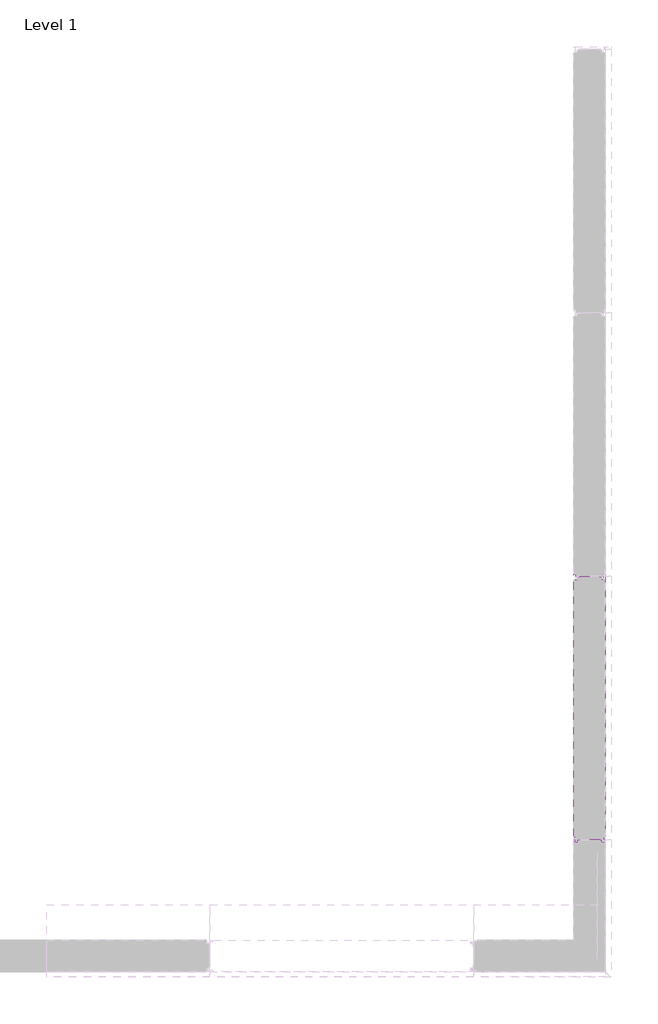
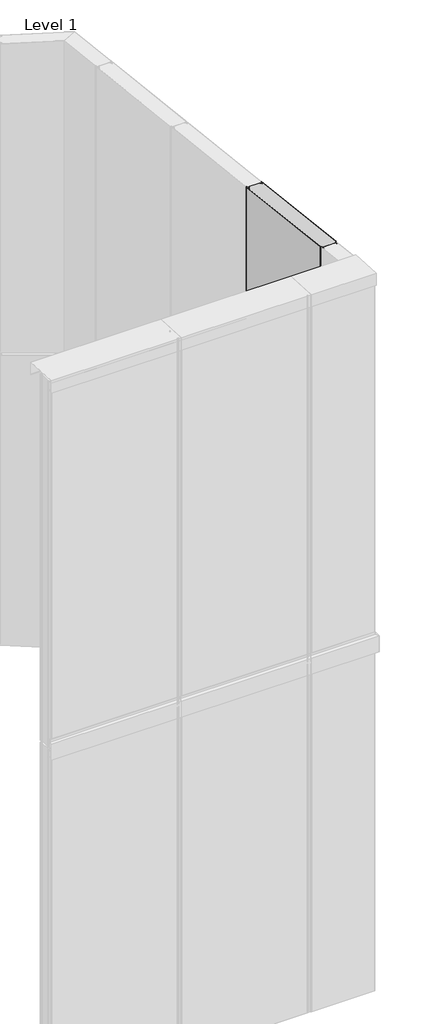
# One storey, part 7 of 16: 1 plate.
"""IFC4 building model written with IfcOpenShell, lengths in millimetres."""

from ifc_helpers import new_model, si_unit, frame, origin, place, context, project, spatial, polyline, circle_curve, ellipse_curve, element, save
from ifc_brep_helpers import plane_surface, cylinder_surface, revolved_surface, advanced_brep

model = new_model("IFC4")

# Units and contexts
model_context = context("Model", 3, world=origin())
ifc_project = project(units=[si_unit("LENGTHUNIT", "METRE", prefix="MILLI")], contexts=[model_context])

# Site, building, storey
site = spatial("IfcSite", under=ifc_project)
building = spatial("IfcBuilding", under=site)
storey = spatial("IfcBuildingStorey", under=building, Name="Level 1", Elevation=0.0)

# Plate
placement = place(None, origin())
element("IfcPlate", 1, ObjectType="TR_C_V_FTV_Panel : 120/RAL9006/RAL9002", at=placement, inside=storey, context=model_context, shape_type="AdvancedBrep", body=[
    advanced_brep(
    [(-11.0024729, 4469.8069107, 3000.0), (-6.5215976, 4466.0470099, 3000.0), (-5.7782846, 4461.8314726, 3000.0), (-0.9155057, 4462.2569107, 3000.0), (-0.9155057, 4477.0069107, 3000.0), (0.051042, 4479.340363, 3000.0), (4.4401293, 4483.7294503, 3000.0), (5.0844943, 4485.2850853, 3000.0), (5.0844943, 5474.6255398, 3000.0), (4.5133526, 5476.004398, 3000.0), (2.6476671, 5477.8700835, 3000.0), (0.6844943, 5477.0569107, 3000.0), (0.6844943, 5459.4569107, 3000.0), (-7.7509386, 5458.7189059, 3000.0), (-8.8177639, 5464.7691728, 3000.0), (-11.7229468, 5467.2069107, 3000.0), (-15.1155057, 5467.2069107, 3000.0), (-15.1155057, 5468.0069107, 3000.0), (-11.7229468, 5468.0069107, 3000.0), (-8.0299177, 5464.9080913, 3000.0), (-6.9630924, 5458.8578244, 3000.0), (-0.1155057, 5459.4569107, 3000.0), (-0.1155057, 5477.0569107, 3000.0), (3.2133526, 5478.4357689, 3000.0), (5.079038, 5476.5700835, 3000.0), (5.8844943, 5474.6255398, 3000.0), (5.8844943, 4485.2850853, 3000.0), (5.0058147, 4483.1637649, 3000.0), (0.6167274, 4478.7746776, 3000.0), (-0.1155057, 4477.0069107, 3000.0), (-0.1155057, 4462.2569107, 3000.0), (-6.5661308, 4461.6925541, 3000.0), (-7.3094438, 4465.9080913, 3000.0), (-11.0024729, 4469.0069107, 3000.0), (-15.1155057, 4469.0069107, 3000.0), (-15.1155057, 4469.8069107, 3000.0), (-15.1155057, 4469.8069107, 5935.7906978), (-11.0024729, 4469.8069107, 5935.7906978), (-15.1155057, 4469.0069107, 5935.8837211), (-11.0024729, 4469.0069107, 5935.8837211), (-7.3094438, 4465.9080913, 5936.2440489), (-6.5661308, 4461.6925541, 5936.7342277), (-0.1155057, 4462.2569107, 5936.6686048), (-0.1155057, 4477.0069107, 5934.9534885), (0.6167274, 4478.7746776, 5934.7479342), (5.0058147, 4483.1637649, 5934.2375753), (5.8844943, 4485.2850853, 5933.9909101), (5.8844943, 5474.6255398, 5818.9513224), (5.079038, 5476.5700835, 5818.7252126), (3.2133526, 5478.4357689, 5818.5082725), (-0.1155057, 5477.0569107, 5818.6686048), (-0.1155057, 5459.4569107, 5820.7151165), (-6.9630924, 5458.8578244, 5820.7847776), (-8.0299177, 5464.9080913, 5820.0812582), (-11.7229468, 5468.0069107, 5819.7209304), (-15.1155057, 5468.0069107, 5819.7209304), (-15.1155057, 5467.2069107, 5819.8139537), (-11.7229468, 5467.2069107, 5819.8139537), (-8.8177639, 5464.7691728, 5820.0974116), (-7.7509386, 5458.7189059, 5820.800931), (0.6844943, 5459.4569107, 5820.7151165), (0.6844943, 5477.0569107, 5818.6686048), (2.6476671, 5477.8700835, 5818.5740498), (4.5133526, 5476.004398, 5818.79099), (5.0844943, 5474.6255398, 5818.9513224), (5.0844943, 4485.2850853, 5933.9909101), (4.4401293, 4483.7294503, 5934.1717979), (0.051042, 4479.340363, 5934.6821569), (-0.9155057, 4477.0069107, 5934.9534885), (-0.9155057, 4462.2569107, 5936.6686048), (-5.7782846, 4461.8314726, 5936.7180744), (-6.5215976, 4466.0470099, 5936.2278956)],
    [
        (0, 1, circle_curve(frame((-11.0024729, 4465.2569107, 3000.0), z_axis=(0.0, 0.0, -1.0), x_axis=(0.0, -1.0, 0.0)), 4.55)),
        (1, 2),
        (2, 3, circle_curve(frame((-3.3655057, 4462.2569107, 3000.0), z_axis=(0.0, 0.0, 1.0), x_axis=(0.0, -1.0, 0.0)), 2.45)),
        (3, 4),
        (4, 5, circle_curve(frame((2.3844943, 4477.0069107, 3000.0), z_axis=(0.0, 0.0, -1.0), x_axis=(0.0, -1.0, 0.0)), 3.3)),
        (5, 6),
        (6, 7, circle_curve(frame((2.8844943, 4485.2850853, 3000.0), z_axis=(0.0, 0.0, 1.0), x_axis=(0.0, -1.0, 0.0)), 2.2)),
        (7, 8),
        (8, 9, circle_curve(frame((3.1344943, 5474.6255398, 3000.0), z_axis=(0.0, 0.0, 1.0), x_axis=(0.0, -1.0, 0.0)), 1.95)),
        (9, 10),
        (10, 11, circle_curve(frame((1.8344943, 5477.0569107, 3000.0), z_axis=(0.0, 0.0, 1.0), x_axis=(0.0, -1.0, 0.0)), 1.15)),
        (11, 12),
        (12, 13, circle_curve(frame((-3.5655057, 5459.4569107, 3000.0), z_axis=(0.0, 0.0, -1.0), x_axis=(0.0, -1.0, 0.0)), 4.25)),
        (13, 14),
        (14, 15, circle_curve(frame((-11.7229468, 5464.2569107, 3000.0), z_axis=(0.0, 0.0, 1.0), x_axis=(0.0, -1.0, 0.0)), 2.95)),
        (15, 16),
        (16, 17),
        (17, 18),
        (18, 19, circle_curve(frame((-11.7229468, 5464.2569107, 3000.0), z_axis=(0.0, 0.0, -1.0), x_axis=(0.0, -1.0, 0.0)), 3.75)),
        (19, 20),
        (20, 21, circle_curve(frame((-3.5655057, 5459.4569107, 3000.0), z_axis=(0.0, 0.0, 1.0), x_axis=(0.0, -1.0, 0.0)), 3.45)),
        (21, 22),
        (22, 23, circle_curve(frame((1.8344943, 5477.0569107, 3000.0), z_axis=(0.0, 0.0, -1.0), x_axis=(0.0, -1.0, 0.0)), 1.95)),
        (23, 24),
        (24, 25, circle_curve(frame((3.1344943, 5474.6255398, 3000.0), z_axis=(0.0, 0.0, -1.0), x_axis=(0.0, -1.0, 0.0)), 2.75)),
        (25, 26),
        (26, 27, circle_curve(frame((2.8844943, 4485.2850853, 3000.0), z_axis=(0.0, 0.0, -1.0), x_axis=(0.0, -1.0, 0.0)), 3.0)),
        (27, 28),
        (28, 29, circle_curve(frame((2.3844943, 4477.0069107, 3000.0), z_axis=(0.0, 0.0, 1.0), x_axis=(0.0, -1.0, 0.0)), 2.5)),
        (29, 30),
        (30, 31, circle_curve(frame((-3.3655057, 4462.2569107, 3000.0), z_axis=(0.0, 0.0, -1.0), x_axis=(0.0, -1.0, 0.0)), 3.25)),
        (31, 32),
        (32, 33, circle_curve(frame((-11.0024729, 4465.2569107, 3000.0), z_axis=(0.0, 0.0, 1.0), x_axis=(0.0, -1.0, 0.0)), 3.75)),
        (33, 34),
        (34, 35),
        (35, 0),
        (35, 36),
        (36, 37),
        (37, 0),
        (34, 38),
        (38, 36),
        (33, 39),
        (39, 38),
        (32, 40),
        (40, 39, ellipse_curve(frame((-11.0024729, 4465.2569107, 5936.3197676), z_axis=(0.0, 0.1155008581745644, 0.9933073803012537), x_axis=(0.0, 0.9933073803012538, -0.11550085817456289)), 3.7752664, 3.75)),
        (31, 41),
        (41, 40),
        (30, 42),
        (42, 41, ellipse_curve(frame((-3.3655057, 4462.2569107, 5936.6686048), z_axis=(0.0, -0.1155008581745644, -0.9933073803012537), x_axis=(0.0, -0.9933073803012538, 0.11550085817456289)), 3.2718976, 3.25)),
        (29, 43),
        (43, 42),
        (28, 44),
        (44, 43, ellipse_curve(frame((2.3844943, 4477.0069107, 5934.9534885), z_axis=(0.0, 0.1155008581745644, 0.9933073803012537), x_axis=(0.0, 0.9933073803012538, -0.11550085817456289)), 2.5168443, 2.5)),
        (27, 45),
        (45, 44),
        (26, 46),
        (46, 45, ellipse_curve(frame((2.8844943, 4485.2850853, 5933.9909101), z_axis=(0.0, -0.1155008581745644, -0.9933073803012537), x_axis=(0.0, -0.9933073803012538, 0.11550085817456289)), 3.0202131, 3.0)),
        (25, 47),
        (47, 46),
        (24, 48),
        (48, 47, ellipse_curve(frame((3.1344943, 5474.6255398, 5818.9513224), z_axis=(0.0, -0.1155008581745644, -0.9933073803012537), x_axis=(0.0, -0.9933073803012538, 0.11550085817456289)), 2.7685287, 2.75)),
        (23, 49),
        (49, 48),
        (22, 50),
        (50, 49, ellipse_curve(frame((1.8344943, 5477.0569107, 5818.6686048), z_axis=(0.0, -0.1155008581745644, -0.9933073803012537), x_axis=(0.0, -0.9933073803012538, 0.11550085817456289)), 1.9631385, 1.95)),
        (21, 51),
        (51, 50),
        (20, 52),
        (52, 51, ellipse_curve(frame((-3.5655057, 5459.4569107, 5820.7151165), z_axis=(0.0, 0.1155008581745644, 0.9933073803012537), x_axis=(0.0, 0.9933073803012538, -0.11550085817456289)), 3.4732451, 3.45)),
        (19, 53),
        (53, 52),
        (18, 54),
        (54, 53, ellipse_curve(frame((-11.7229468, 5464.2569107, 5820.1569769), z_axis=(0.0, -0.1155008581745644, -0.9933073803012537), x_axis=(0.0, -0.9933073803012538, 0.11550085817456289)), 3.7752664, 3.75)),
        (17, 55),
        (55, 54),
        (16, 56),
        (56, 55),
        (15, 57),
        (57, 56),
        (14, 58),
        (58, 57, ellipse_curve(frame((-11.7229468, 5464.2569107, 5820.1569769), z_axis=(0.0, 0.1155008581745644, 0.9933073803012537), x_axis=(0.0, 0.9933073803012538, -0.11550085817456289)), 2.9698763, 2.95)),
        (13, 59),
        (59, 58),
        (12, 60),
        (60, 59, ellipse_curve(frame((-3.5655057, 5459.4569107, 5820.7151165), z_axis=(0.0, -0.1155008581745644, -0.9933073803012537), x_axis=(0.0, -0.9933073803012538, 0.11550085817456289)), 4.2786353, 4.25)),
        (11, 61),
        (61, 60),
        (10, 62),
        (62, 61, ellipse_curve(frame((1.8344943, 5477.0569107, 5818.6686048), z_axis=(0.0, 0.1155008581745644, 0.9933073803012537), x_axis=(0.0, 0.9933073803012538, -0.11550085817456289)), 1.1577484, 1.15)),
        (9, 63),
        (63, 62),
        (8, 64),
        (64, 63, ellipse_curve(frame((3.1344943, 5474.6255398, 5818.9513224), z_axis=(0.0, 0.1155008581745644, 0.9933073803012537), x_axis=(0.0, 0.9933073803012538, -0.11550085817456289)), 1.9631385, 1.95)),
        (7, 65),
        (65, 64),
        (6, 66),
        (66, 65, ellipse_curve(frame((2.8844943, 4485.2850853, 5933.9909101), z_axis=(0.0, 0.1155008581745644, 0.9933073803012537), x_axis=(0.0, 0.9933073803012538, -0.11550085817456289)), 2.214823, 2.2)),
        (5, 67),
        (67, 66),
        (4, 68),
        (68, 67, ellipse_curve(frame((2.3844943, 4477.0069107, 5934.9534885), z_axis=(0.0, -0.1155008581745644, -0.9933073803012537), x_axis=(0.0, -0.9933073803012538, 0.11550085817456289)), 3.3222345, 3.3)),
        (3, 69),
        (69, 68),
        (2, 70),
        (70, 69, ellipse_curve(frame((-3.3655057, 4462.2569107, 5936.6686048), z_axis=(0.0, 0.1155008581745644, 0.9933073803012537), x_axis=(0.0, 0.9933073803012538, -0.11550085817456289)), 2.4665074, 2.45)),
        (1, 71),
        (71, 70),
        (37, 71, ellipse_curve(frame((-11.0024729, 4465.2569107, 5936.3197676), z_axis=(0.0, -0.1155008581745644, -0.9933073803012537), x_axis=(0.0, -0.9933073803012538, 0.11550085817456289)), 4.5806566, 4.55)),
    ],
    [
        plane_surface(frame((-15.1155057, 4469.8069107, 3000.0), z_axis=(0.0, 0.0, -1.0), x_axis=(1.0, 0.0, 0.0))),
        plane_surface(frame((-11.0024729, 4469.8069107, 5980.0), z_axis=(0.0, 1.0, 0.0), x_axis=(0.0, 0.0, -1.0))),
        plane_surface(frame((-15.1155057, 4469.8069107, 5980.0), z_axis=(-1.0, 0.0, 0.0), x_axis=(0.0, 0.0, -1.0))),
        plane_surface(frame((-15.1155057, 4469.0069107, 5980.0), z_axis=(0.0, -1.0, 0.0), x_axis=(0.0, 0.0, -1.0))),
        revolved_surface(polyline([(-11.0024729, 4461.5069107, 3000.0), (-11.0024729, 4461.5069107, 5936.755814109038)]), (-11.0024729, 4465.2569107, 3000.0), (0.0, 0.0, -1.0)),
        plane_surface(frame((-7.3094438, 4465.9080913, 5980.0), z_axis=(-0.9848077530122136, -0.17364817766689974, 0.0), x_axis=(0.0, 0.0, -1.0))),
        cylinder_surface(frame((-3.3655057, 4462.2569107, 3000.0), z_axis=(0.0, 0.0, 1.0), x_axis=(0.0, -1.0, 0.0)), 3.25),
        plane_surface(frame((-0.1155057, 4462.2569107, 5980.0), z_axis=(1.0, 0.0, 0.0), x_axis=(0.0, 0.0, -1.0))),
        revolved_surface(polyline([(2.3844943, 4474.5069107, 3000.0), (2.3844943, 4474.5069107, 5935.244186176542)]), (2.3844943, 4477.0069107, 3000.0), (0.0, 0.0, -1.0)),
        plane_surface(frame((0.6167274, 4478.7746776, 5980.0), z_axis=(0.7071067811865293, -0.7071067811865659, 0.0), x_axis=(0.0, 0.0, -1.0))),
        cylinder_surface(frame((2.8844943, 4485.2850853, 3000.0), z_axis=(0.0, 0.0, 1.0), x_axis=(0.0, -1.0, 0.0)), 3.0),
        plane_surface(frame((5.8844943, 4485.2850853, 5980.0), z_axis=(1.0, 0.0, 0.0), x_axis=(0.0, 0.0, -1.0))),
        cylinder_surface(frame((3.1344943, 5474.6255398, 3000.0), z_axis=(0.0, 0.0, 1.0), x_axis=(0.0, -1.0, 0.0)), 2.75),
        plane_surface(frame((5.079038, 5476.5700835, 5980.0), z_axis=(0.7071067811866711, 0.707106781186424, 0.0), x_axis=(0.0, 0.0, -1.0))),
        cylinder_surface(frame((1.8344943, 5477.0569107, 3000.0), z_axis=(0.0, 0.0, 1.0), x_axis=(0.0, -1.0, 0.0)), 1.95),
        plane_surface(frame((-0.1155057, 5477.0569107, 5980.0), z_axis=(-1.0, 0.0, 0.0), x_axis=(0.0, 0.0, -1.0))),
        revolved_surface(polyline([(-3.5655057, 5456.0069107, 3000.0), (-3.5655057, 5456.0069107, 5821.1162792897)]), (-3.5655057, 5459.4569107, 3000.0), (0.0, 0.0, -1.0)),
        plane_surface(frame((-6.9630924, 5458.8578244, 5980.0), z_axis=(0.9848077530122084, 0.17364817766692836, 0.0), x_axis=(0.0, 0.0, -1.0))),
        cylinder_surface(frame((-11.7229468, 5464.2569107, 3000.0), z_axis=(0.0, 0.0, 1.0), x_axis=(0.0, -1.0, 0.0)), 3.75),
        plane_surface(frame((-11.7229468, 5468.0069107, 5980.0), z_axis=(0.0, 1.0, 0.0), x_axis=(0.0, 0.0, -1.0))),
        plane_surface(frame((-15.1155057, 5468.0069107, 5980.0), z_axis=(-1.0, 0.0, 0.0), x_axis=(0.0, 0.0, -1.0))),
        plane_surface(frame((-15.1155057, 5467.2069107, 5980.0), z_axis=(0.0, -1.0, 0.0), x_axis=(0.0, 0.0, -1.0))),
        revolved_surface(polyline([(-11.7229468, 5461.3069107, 3000.0), (-11.7229468, 5461.3069107, 5820.5000001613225)]), (-11.7229468, 5464.2569107, 3000.0), (0.0, 0.0, -1.0)),
        plane_surface(frame((-8.8177639, 5464.7691728, 5980.0), z_axis=(-0.9848077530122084, -0.17364817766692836, 0.0), x_axis=(0.0, 0.0, -1.0))),
        cylinder_surface(frame((-3.5655057, 5459.4569107, 3000.0), z_axis=(0.0, 0.0, 1.0), x_axis=(0.0, -1.0, 0.0)), 4.25),
        plane_surface(frame((0.6844943, 5459.4569107, 5980.0), z_axis=(1.0, 0.0, 0.0), x_axis=(0.0, 0.0, -1.0))),
        revolved_surface(polyline([(1.8344943, 5475.9069107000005, 3000.0), (1.8344943, 5475.9069107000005, 5818.80232573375)]), (1.8344943, 5477.0569107, 3000.0), (0.0, 0.0, -1.0)),
        plane_surface(frame((2.6476671, 5477.8700835, 5980.0), z_axis=(-0.7071067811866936, -0.7071067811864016, 0.0), x_axis=(0.0, 0.0, -1.0))),
        revolved_surface(polyline([(3.1344943, 5472.6755398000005, 3000.0), (3.1344943, 5472.6755398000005, 5819.178066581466)]), (3.1344943, 5474.6255398, 3000.0), (0.0, 0.0, -1.0)),
        plane_surface(frame((5.0844943, 5474.6255398, 5980.0), z_axis=(-1.0, 0.0, 0.0), x_axis=(0.0, 0.0, -1.0))),
        revolved_surface(polyline([(2.8844943, 4483.0850853, 3000.0), (2.8844943, 4483.0850853, 5934.246724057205)]), (2.8844943, 4485.2850853, 3000.0), (0.0, 0.0, -1.0)),
        plane_surface(frame((4.4401293, 4483.7294503, 5980.0), z_axis=(-0.7071067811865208, 0.7071067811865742, 0.0), x_axis=(0.0, 0.0, -1.0))),
        cylinder_surface(frame((2.3844943, 4477.0069107, 3000.0), z_axis=(0.0, 0.0, 1.0), x_axis=(0.0, -1.0, 0.0)), 3.3),
        plane_surface(frame((-0.9155057, 4477.0069107, 5980.0), z_axis=(-1.0, 0.0, 0.0), x_axis=(0.0, 0.0, -1.0))),
        revolved_surface(polyline([(-3.3655057, 4459.8069107, 3000.0), (-3.3655057, 4459.8069107, 5936.953488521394)]), (-3.3655057, 4462.2569107, 3000.0), (0.0, 0.0, -1.0)),
        plane_surface(frame((-5.7782846, 4461.8314726, 5980.0), z_axis=(0.9848077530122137, 0.17364817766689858, 0.0), x_axis=(0.0, 0.0, -1.0))),
        cylinder_surface(frame((-11.0024729, 4465.2569107, 3000.0), z_axis=(0.0, 0.0, 1.0), x_axis=(0.0, -1.0, 0.0)), 4.55),
        plane_surface(frame((5.8844943, 6239.6069121, 5730.0), z_axis=(0.0, 0.1155008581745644, 0.9933073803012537), x_axis=(0.0, -0.9933073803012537, 0.1155008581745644))),
    ],
    [
        (0, [[1, 2, 3, 4, 5, 6, 7, 8, 9, 10, 11, 12, 13, 14, 15, 16, 17, 18, 19, 20, 21, 22, 23, 24, 25, 26, 27, 28, 29, 30, 31, 32, 33, 34, 35, 36]]),
        (1, [[-36, 37, 38, 39]]),
        (2, [[-35, 40, 41, -37]]),
        (3, [[-34, 42, 43, -40]]),
        (4, [[-33, 44, 45, -42]]),
        (5, [[-32, 46, 47, -44]]),
        (6, [[-31, 48, 49, -46]]),
        (7, [[-30, 50, 51, -48]]),
        (8, [[-29, 52, 53, -50]]),
        (9, [[-28, 54, 55, -52]]),
        (10, [[-27, 56, 57, -54]]),
        (11, [[-26, 58, 59, -56]]),
        (12, [[-25, 60, 61, -58]]),
        (13, [[-24, 62, 63, -60]]),
        (14, [[-23, 64, 65, -62]]),
        (15, [[-22, 66, 67, -64]]),
        (16, [[-21, 68, 69, -66]]),
        (17, [[-20, 70, 71, -68]]),
        (18, [[-19, 72, 73, -70]]),
        (19, [[-18, 74, 75, -72]]),
        (20, [[-17, 76, 77, -74]]),
        (21, [[-16, 78, 79, -76]]),
        (22, [[-15, 80, 81, -78]]),
        (23, [[-14, 82, 83, -80]]),
        (24, [[-13, 84, 85, -82]]),
        (25, [[-12, 86, 87, -84]]),
        (26, [[-11, 88, 89, -86]]),
        (27, [[-10, 90, 91, -88]]),
        (28, [[-9, 92, 93, -90]]),
        (29, [[-8, 94, 95, -92]]),
        (30, [[-7, 96, 97, -94]]),
        (31, [[-6, 98, 99, -96]]),
        (32, [[-5, 100, 101, -98]]),
        (33, [[-4, 102, 103, -100]]),
        (34, [[-3, 104, 105, -102]]),
        (35, [[-2, 106, 107, -104]]),
        (36, [[-1, -39, 108, -106]]),
        (37, [[-38, -41, -43, -45, -47, -49, -51, -53, -55, -57, -59, -61, -63, -65, -67, -69, -71, -73, -75, -77, -79, -81, -83, -85, -87, -89, -91, -93, -95, -97, -99, -101, -103, -105, -107, -108]]),
    ],
),
    advanced_brep(
    [(-17.8155057, 5469.6069107, 3000.0), (-17.8155057, 5467.2069107, 3000.0), (-11.7229468, 5467.2069107, 3000.0), (-8.8177639, 5464.7691728, 3000.0), (-7.7509386, 5458.7189059, 3000.0), (-3.5655057, 5455.2069107, 3000.0), (5.0844943, 5455.2069107, 3000.0), (5.0844943, 4485.2850853, 3000.0), (4.4401293, 4483.7294503, 3000.0), (0.051042, 4479.340363, 3000.0), (-0.9155057, 4477.0069107, 3000.0), (-0.9155057, 4469.6069118, 3000.0), (-107.3155057, 4469.6069118, 3000.0), (-107.3155057, 4477.0069107, 3000.0), (-108.2820533, 4479.340363, 3000.0), (-112.6711406, 4483.7294503, 3000.0), (-113.3155057, 4485.2850853, 3000.0), (-113.3155057, 5455.2069107, 3000.0), (-104.6655057, 5455.2069107, 3000.0), (-100.4800727, 5458.7189059, 3000.0), (-99.4132474, 5464.7691728, 3000.0), (-96.5080645, 5467.2069107, 3000.0), (-90.4155057, 5467.2069107, 3000.0), (-90.4155057, 5469.6069107, 3000.0), (-90.4155057, 5469.6069107, 5819.5348839), (-17.8155057, 5469.6069107, 5819.5348839), (-90.4155057, 5467.2069107, 5819.8139537), (-96.5080645, 5467.2069107, 5819.8139537), (-99.4132474, 5464.7691728, 5820.0974116), (-100.4800727, 5458.7189059, 5820.800931), (-104.6655057, 5455.2069107, 5821.2093025), (-113.3155057, 5455.2069107, 5821.2093025), (-113.3155057, 4485.2850853, 5933.9909101), (-112.6711406, 4483.7294503, 5934.1717979), (-108.2820533, 4479.340363, 5934.6821569), (-107.3155057, 4477.0069107, 5934.9534885), (-107.3155057, 4469.6069118, 5935.8139535), (-0.9155057, 4469.6069118, 5935.8139535), (-0.9155057, 4477.0069107, 5934.9534885), (0.051042, 4479.340363, 5934.6821569), (4.4401293, 4483.7294503, 5934.1717979), (5.0844943, 4485.2850853, 5933.9909101), (5.0844943, 5455.2069107, 5821.2093025), (-3.5655057, 5455.2069107, 5821.2093025), (-7.7509386, 5458.7189059, 5820.800931), (-8.8177639, 5464.7691728, 5820.0974116), (-11.7229468, 5467.2069107, 5819.8139537), (-17.8155057, 5467.2069107, 5819.8139537)],
    [
        (0, 1),
        (1, 2),
        (2, 3, circle_curve(frame((-11.7229468, 5464.2569107, 3000.0), z_axis=(0.0, 0.0, -1.0), x_axis=(0.0, -1.0, 0.0)), 2.95)),
        (3, 4),
        (4, 5, circle_curve(frame((-3.5655057, 5459.4569107, 3000.0), z_axis=(0.0, 0.0, 1.0), x_axis=(0.0, -1.0, 0.0)), 4.25)),
        (5, 6),
        (6, 7),
        (7, 8, circle_curve(frame((2.8844943, 4485.2850853, 3000.0), z_axis=(0.0, 0.0, -1.0), x_axis=(0.0, -1.0, 0.0)), 2.2)),
        (8, 9),
        (9, 10, circle_curve(frame((2.3844943, 4477.0069107, 3000.0), z_axis=(0.0, 0.0, 1.0), x_axis=(0.0, -1.0, 0.0)), 3.3)),
        (10, 11),
        (11, 12),
        (12, 13),
        (13, 14, circle_curve(frame((-110.6155057, 4477.0069107, 3000.0), z_axis=(0.0, 0.0, 1.0), x_axis=(0.0, -1.0, 0.0)), 3.3)),
        (14, 15),
        (15, 16, circle_curve(frame((-111.1155057, 4485.2850853, 3000.0), z_axis=(0.0, 0.0, -1.0), x_axis=(0.0, -1.0, 0.0)), 2.2)),
        (16, 17),
        (17, 18),
        (18, 19, circle_curve(frame((-104.6655057, 5459.4569107, 3000.0), z_axis=(0.0, 0.0, 1.0), x_axis=(0.0, -1.0, 0.0)), 4.25)),
        (19, 20),
        (20, 21, circle_curve(frame((-96.5080645, 5464.2569107, 3000.0), z_axis=(0.0, 0.0, -1.0), x_axis=(0.0, -1.0, 0.0)), 2.95)),
        (21, 22),
        (22, 23),
        (23, 0),
        (23, 24),
        (24, 25),
        (25, 0),
        (22, 26),
        (26, 24),
        (21, 27),
        (27, 26),
        (20, 28),
        (28, 27, ellipse_curve(frame((-96.5080645, 5464.2569107, 5820.1569769), z_axis=(0.0, -0.1155008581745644, -0.9933073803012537), x_axis=(0.0, -0.9933073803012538, 0.11550085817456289)), 2.9698763, 2.95)),
        (19, 29),
        (29, 28),
        (18, 30),
        (30, 29, ellipse_curve(frame((-104.6655057, 5459.4569107, 5820.7151165), z_axis=(0.0, 0.1155008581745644, 0.9933073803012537), x_axis=(0.0, 0.9933073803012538, -0.11550085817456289)), 4.2786353, 4.25)),
        (17, 31),
        (31, 30),
        (16, 32),
        (32, 31),
        (15, 33),
        (33, 32, ellipse_curve(frame((-111.1155057, 4485.2850853, 5933.9909101), z_axis=(0.0, -0.1155008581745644, -0.9933073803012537), x_axis=(0.0, -0.9933073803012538, 0.11550085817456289)), 2.214823, 2.2)),
        (14, 34),
        (34, 33),
        (13, 35),
        (35, 34, ellipse_curve(frame((-110.6155057, 4477.0069107, 5934.9534885), z_axis=(0.0, 0.1155008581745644, 0.9933073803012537), x_axis=(0.0, 0.9933073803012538, -0.11550085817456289)), 3.3222345, 3.3)),
        (12, 36),
        (36, 35),
        (11, 37),
        (37, 36),
        (10, 38),
        (38, 37),
        (9, 39),
        (39, 38, ellipse_curve(frame((2.3844943, 4477.0069107, 5934.9534885), z_axis=(0.0, 0.1155008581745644, 0.9933073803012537), x_axis=(0.0, 0.9933073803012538, -0.11550085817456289)), 3.3222345, 3.3)),
        (8, 40),
        (40, 39),
        (7, 41),
        (41, 40, ellipse_curve(frame((2.8844943, 4485.2850853, 5933.9909101), z_axis=(0.0, -0.1155008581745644, -0.9933073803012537), x_axis=(0.0, -0.9933073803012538, 0.11550085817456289)), 2.214823, 2.2)),
        (6, 42),
        (42, 41),
        (5, 43),
        (43, 42),
        (4, 44),
        (44, 43, ellipse_curve(frame((-3.5655057, 5459.4569107, 5820.7151165), z_axis=(0.0, 0.1155008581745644, 0.9933073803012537), x_axis=(0.0, 0.9933073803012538, -0.11550085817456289)), 4.2786353, 4.25)),
        (3, 45),
        (45, 44),
        (2, 46),
        (46, 45, ellipse_curve(frame((-11.7229468, 5464.2569107, 5820.1569769), z_axis=(0.0, -0.1155008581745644, -0.9933073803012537), x_axis=(0.0, -0.9933073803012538, 0.11550085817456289)), 2.9698763, 2.95)),
        (1, 47),
        (47, 46),
        (25, 47),
    ],
    [
        plane_surface(frame((-90.4155057, 5469.6069107, 3000.0), z_axis=(0.0, 0.0, -1.0), x_axis=(1.0, 0.0, 0.0))),
        plane_surface(frame((-17.8155057, 5469.6069107, 5980.0), z_axis=(0.0, 1.0, 0.0), x_axis=(0.0, 0.0, -1.0))),
        plane_surface(frame((-90.4155057, 5469.6069107, 5980.0), z_axis=(-1.0, 0.0, 0.0), x_axis=(0.0, 0.0, -1.0))),
        plane_surface(frame((-90.4155057, 5467.2069107, 5980.0), z_axis=(0.0, 1.0, 0.0), x_axis=(0.0, 0.0, -1.0))),
        cylinder_surface(frame((-96.5080645, 5464.2569107, 3000.0), z_axis=(0.0, 0.0, 1.0), x_axis=(0.0, -1.0, 0.0)), 2.95),
        plane_surface(frame((-99.4132474, 5464.7691728, 5980.0), z_axis=(-0.9848077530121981, 0.17364817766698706, 0.0), x_axis=(0.0, 0.0, -1.0))),
        revolved_surface(polyline([(-104.6655057, 5455.2069107, 3000.0), (-104.6655057, 5455.2069107, 5821.209302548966)]), (-104.6655057, 5459.4569107, 3000.0), (0.0, 0.0, -1.0)),
        plane_surface(frame((-104.6655057, 5455.2069107, 5980.0), z_axis=(0.0, 1.0, 0.0), x_axis=(0.0, 0.0, -1.0))),
        plane_surface(frame((-113.3155057, 5455.2069107, 5980.0), z_axis=(-1.0, 0.0, 0.0), x_axis=(0.0, 0.0, -1.0))),
        cylinder_surface(frame((-111.1155057, 4485.2850853, 3000.0), z_axis=(0.0, 0.0, 1.0), x_axis=(0.0, -1.0, 0.0)), 2.2),
        plane_surface(frame((-112.6711406, 4483.7294503, 5980.0), z_axis=(-0.7071067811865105, -0.7071067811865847, 0.0), x_axis=(0.0, 0.0, -1.0))),
        revolved_surface(polyline([(-110.6155057, 4473.7069107, 3000.0), (-110.6155057, 4473.7069107, 5935.337209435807)]), (-110.6155057, 4477.0069107, 3000.0), (0.0, 0.0, -1.0)),
        plane_surface(frame((-107.3155057, 4477.0069107, 5980.0), z_axis=(-1.0, 0.0, 0.0), x_axis=(0.0, 0.0, -1.0))),
        plane_surface(frame((-107.3155057, 4469.6069118, 5980.0), z_axis=(0.0, -1.0, 0.0), x_axis=(0.0, 0.0, -1.0))),
        plane_surface(frame((-0.9155057, 4469.6069118, 5980.0), z_axis=(1.0, 0.0, 0.0), x_axis=(0.0, 0.0, -1.0))),
        revolved_surface(polyline([(2.3844943, 4473.7069107, 3000.0), (2.3844943, 4473.7069107, 5935.337209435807)]), (2.3844943, 4477.0069107, 3000.0), (0.0, 0.0, -1.0)),
        plane_surface(frame((0.051042, 4479.340363, 5980.0), z_axis=(0.7071067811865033, -0.7071067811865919, 0.0), x_axis=(0.0, 0.0, -1.0))),
        cylinder_surface(frame((2.8844943, 4485.2850853, 3000.0), z_axis=(0.0, 0.0, 1.0), x_axis=(0.0, -1.0, 0.0)), 2.2),
        plane_surface(frame((5.0844943, 4485.2850853, 5980.0), z_axis=(1.0, 0.0, 0.0), x_axis=(0.0, 0.0, -1.0))),
        plane_surface(frame((5.0844943, 5455.2069107, 5980.0), z_axis=(0.0, 1.0, 0.0), x_axis=(0.0, 0.0, -1.0))),
        revolved_surface(polyline([(-3.5655057, 5455.2069107, 3000.0), (-3.5655057, 5455.2069107, 5821.209302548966)]), (-3.5655057, 5459.4569107, 3000.0), (0.0, 0.0, -1.0)),
        plane_surface(frame((-7.7509386, 5458.7189059, 5980.0), z_axis=(0.9848077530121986, 0.17364817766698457, 0.0), x_axis=(0.0, 0.0, -1.0))),
        cylinder_surface(frame((-11.7229468, 5464.2569107, 3000.0), z_axis=(0.0, 0.0, 1.0), x_axis=(0.0, -1.0, 0.0)), 2.95),
        plane_surface(frame((-11.7229468, 5467.2069107, 5980.0), z_axis=(0.0, 1.0, 0.0), x_axis=(0.0, 0.0, -1.0))),
        plane_surface(frame((-17.8155057, 5467.2069107, 5980.0), z_axis=(1.0, 0.0, 0.0), x_axis=(0.0, 0.0, -1.0))),
        plane_surface(frame((5.8844943, 6239.6069121, 5730.0), z_axis=(0.0, 0.1155008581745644, 0.9933073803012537), x_axis=(0.0, -0.9933073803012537, 0.1155008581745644))),
    ],
    [
        (0, [[1, 2, 3, 4, 5, 6, 7, 8, 9, 10, 11, 12, 13, 14, 15, 16, 17, 18, 19, 20, 21, 22, 23, 24]]),
        (1, [[-24, 25, 26, 27]]),
        (2, [[-23, 28, 29, -25]]),
        (3, [[-22, 30, 31, -28]]),
        (4, [[-21, 32, 33, -30]]),
        (5, [[-20, 34, 35, -32]]),
        (6, [[-19, 36, 37, -34]]),
        (7, [[-18, 38, 39, -36]]),
        (8, [[-17, 40, 41, -38]]),
        (9, [[-16, 42, 43, -40]]),
        (10, [[-15, 44, 45, -42]]),
        (11, [[-14, 46, 47, -44]]),
        (12, [[-13, 48, 49, -46]]),
        (13, [[-12, 50, 51, -48]]),
        (14, [[-11, 52, 53, -50]]),
        (15, [[-10, 54, 55, -52]]),
        (16, [[-9, 56, 57, -54]]),
        (17, [[-8, 58, 59, -56]]),
        (18, [[-7, 60, 61, -58]]),
        (19, [[-6, 62, 63, -60]]),
        (20, [[-5, 64, 65, -62]]),
        (21, [[-4, 66, 67, -64]]),
        (22, [[-3, 68, 69, -66]]),
        (23, [[-2, 70, 71, -68]]),
        (24, [[-1, -27, 72, -70]]),
        (25, [[-26, -29, -31, -33, -35, -37, -39, -41, -43, -45, -47, -49, -51, -53, -55, -57, -59, -61, -63, -65, -67, -69, -71, -72]]),
    ],
),
    advanced_brep(
    [(-97.2285384, 4469.8069107, 3000.0), (-93.1155057, 4469.8069107, 3000.0), (-93.1155057, 4469.0069107, 3000.0), (-97.2285384, 4469.0069107, 3000.0), (-100.9215675, 4465.9080913, 3000.0), (-101.6648805, 4461.6925541, 3000.0), (-108.1155057, 4462.2569107, 3000.0), (-108.1155057, 4477.0069107, 3000.0), (-108.8477387, 4478.7746776, 3000.0), (-113.236826, 4483.1637649, 3000.0), (-114.1155057, 4485.2850853, 3000.0), (-114.1155057, 5474.6255398, 3000.0), (-113.3100493, 5476.5700835, 3000.0), (-111.4443639, 5478.4357689, 3000.0), (-108.1155057, 5477.0569107, 3000.0), (-108.1155057, 5459.4569107, 3000.0), (-101.2679189, 5458.8578244, 3000.0), (-100.2010936, 5464.9080913, 3000.0), (-96.5080645, 5468.0069107, 3000.0), (-93.1155057, 5468.0069107, 3000.0), (-93.1155057, 5467.2069107, 3000.0), (-96.5080645, 5467.2069107, 3000.0), (-99.4132474, 5464.7691728, 3000.0), (-100.4800727, 5458.7189059, 3000.0), (-108.9155057, 5459.4569107, 3000.0), (-108.9155057, 5477.0569107, 3000.0), (-110.8786785, 5477.8700835, 3000.0), (-112.7443639, 5476.004398, 3000.0), (-113.3155057, 5474.6255398, 3000.0), (-113.3155057, 4485.2850853, 3000.0), (-112.6711406, 4483.7294503, 3000.0), (-108.2820533, 4479.340363, 3000.0), (-107.3155057, 4477.0069107, 3000.0), (-107.3155057, 4462.2569107, 3000.0), (-102.4527267, 4461.8314726, 3000.0), (-101.7094137, 4466.0470099, 3000.0), (-101.7094137, 4466.0470099, 5936.2278956), (-97.2285384, 4469.8069107, 5935.7906978), (-102.4527267, 4461.8314726, 5936.7180744), (-107.3155057, 4462.2569107, 5936.6686048), (-107.3155057, 4477.0069107, 5934.9534885), (-108.2820533, 4479.340363, 5934.6821569), (-112.6711406, 4483.7294503, 5934.1717979), (-113.3155057, 4485.2850853, 5933.9909101), (-113.3155057, 5474.6255398, 5818.9513224), (-112.7443639, 5476.004398, 5818.79099), (-110.8786785, 5477.8700835, 5818.5740498), (-108.9155057, 5477.0569107, 5818.6686048), (-108.9155057, 5459.4569107, 5820.7151165), (-100.4800727, 5458.7189059, 5820.800931), (-99.4132474, 5464.7691728, 5820.0974116), (-96.5080645, 5467.2069107, 5819.8139537), (-93.1155057, 5467.2069107, 5819.8139537), (-93.1155057, 5468.0069107, 5819.7209304), (-96.5080645, 5468.0069107, 5819.7209304), (-100.2010936, 5464.9080913, 5820.0812582), (-101.2679189, 5458.8578244, 5820.7847776), (-108.1155057, 5459.4569107, 5820.7151165), (-108.1155057, 5477.0569107, 5818.6686048), (-111.4443639, 5478.4357689, 5818.5082725), (-113.3100493, 5476.5700835, 5818.7252126), (-114.1155057, 5474.6255398, 5818.9513224), (-114.1155057, 4485.2850853, 5933.9909101), (-113.236826, 4483.1637649, 5934.2375753), (-108.8477387, 4478.7746776, 5934.7479342), (-108.1155057, 4477.0069107, 5934.9534885), (-108.1155057, 4462.2569107, 5936.6686048), (-101.6648805, 4461.6925541, 5936.7342277), (-100.9215675, 4465.9080913, 5936.2440489), (-97.2285384, 4469.0069107, 5935.8837211), (-93.1155057, 4469.0069107, 5935.8837211), (-93.1155057, 4469.8069107, 5935.7906978)],
    [
        (0, 1),
        (1, 2),
        (2, 3),
        (3, 4, circle_curve(frame((-97.2285384, 4465.2569107, 3000.0), z_axis=(0.0, 0.0, 1.0), x_axis=(0.0, -1.0, 0.0)), 3.75)),
        (4, 5),
        (5, 6, circle_curve(frame((-104.8655057, 4462.2569107, 3000.0), z_axis=(0.0, 0.0, -1.0), x_axis=(0.0, -1.0, 0.0)), 3.25)),
        (6, 7),
        (7, 8, circle_curve(frame((-110.6155057, 4477.0069107, 3000.0), z_axis=(0.0, 0.0, 1.0), x_axis=(0.0, -1.0, 0.0)), 2.5)),
        (8, 9),
        (9, 10, circle_curve(frame((-111.1155057, 4485.2850853, 3000.0), z_axis=(0.0, 0.0, -1.0), x_axis=(0.0, -1.0, 0.0)), 3.0)),
        (10, 11),
        (11, 12, circle_curve(frame((-111.3655057, 5474.6255398, 3000.0), z_axis=(0.0, 0.0, -1.0), x_axis=(0.0, -1.0, 0.0)), 2.75)),
        (12, 13),
        (13, 14, circle_curve(frame((-110.0655057, 5477.0569107, 3000.0), z_axis=(0.0, 0.0, -1.0), x_axis=(0.0, -1.0, 0.0)), 1.95)),
        (14, 15),
        (15, 16, circle_curve(frame((-104.6655057, 5459.4569107, 3000.0), z_axis=(0.0, 0.0, 1.0), x_axis=(0.0, -1.0, 0.0)), 3.45)),
        (16, 17),
        (17, 18, circle_curve(frame((-96.5080645, 5464.2569107, 3000.0), z_axis=(0.0, 0.0, -1.0), x_axis=(0.0, -1.0, 0.0)), 3.75)),
        (18, 19),
        (19, 20),
        (20, 21),
        (21, 22, circle_curve(frame((-96.5080645, 5464.2569107, 3000.0), z_axis=(0.0, 0.0, 1.0), x_axis=(0.0, -1.0, 0.0)), 2.95)),
        (22, 23),
        (23, 24, circle_curve(frame((-104.6655057, 5459.4569107, 3000.0), z_axis=(0.0, 0.0, -1.0), x_axis=(0.0, -1.0, 0.0)), 4.25)),
        (24, 25),
        (25, 26, circle_curve(frame((-110.0655057, 5477.0569107, 3000.0), z_axis=(0.0, 0.0, 1.0), x_axis=(0.0, -1.0, 0.0)), 1.15)),
        (26, 27),
        (27, 28, circle_curve(frame((-111.3655057, 5474.6255398, 3000.0), z_axis=(0.0, 0.0, 1.0), x_axis=(0.0, -1.0, 0.0)), 1.95)),
        (28, 29),
        (29, 30, circle_curve(frame((-111.1155057, 4485.2850853, 3000.0), z_axis=(0.0, 0.0, 1.0), x_axis=(0.0, -1.0, 0.0)), 2.2)),
        (30, 31),
        (31, 32, circle_curve(frame((-110.6155057, 4477.0069107, 3000.0), z_axis=(0.0, 0.0, -1.0), x_axis=(0.0, -1.0, 0.0)), 3.3)),
        (32, 33),
        (33, 34, circle_curve(frame((-104.8655057, 4462.2569107, 3000.0), z_axis=(0.0, 0.0, 1.0), x_axis=(0.0, -1.0, 0.0)), 2.45)),
        (34, 35),
        (35, 0, circle_curve(frame((-97.2285384, 4465.2569107, 3000.0), z_axis=(0.0, 0.0, -1.0), x_axis=(0.0, -1.0, 0.0)), 4.55)),
        (35, 36),
        (36, 37, ellipse_curve(frame((-97.2285384, 4465.2569107, 5936.3197676), z_axis=(0.0, -0.1155008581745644, -0.9933073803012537), x_axis=(0.0, -0.9933073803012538, 0.11550085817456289)), 4.5806566, 4.55)),
        (37, 0),
        (34, 38),
        (38, 36),
        (33, 39),
        (39, 38, ellipse_curve(frame((-104.8655057, 4462.2569107, 5936.6686048), z_axis=(0.0, 0.1155008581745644, 0.9933073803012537), x_axis=(0.0, 0.9933073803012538, -0.11550085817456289)), 2.4665074, 2.45)),
        (32, 40),
        (40, 39),
        (31, 41),
        (41, 40, ellipse_curve(frame((-110.6155057, 4477.0069107, 5934.9534885), z_axis=(0.0, -0.1155008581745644, -0.9933073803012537), x_axis=(0.0, -0.9933073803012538, 0.11550085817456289)), 3.3222345, 3.3)),
        (30, 42),
        (42, 41),
        (29, 43),
        (43, 42, ellipse_curve(frame((-111.1155057, 4485.2850853, 5933.9909101), z_axis=(0.0, 0.1155008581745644, 0.9933073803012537), x_axis=(0.0, 0.9933073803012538, -0.11550085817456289)), 2.214823, 2.2)),
        (28, 44),
        (44, 43),
        (27, 45),
        (45, 44, ellipse_curve(frame((-111.3655057, 5474.6255398, 5818.9513224), z_axis=(0.0, 0.1155008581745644, 0.9933073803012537), x_axis=(0.0, 0.9933073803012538, -0.11550085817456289)), 1.9631385, 1.95)),
        (26, 46),
        (46, 45),
        (25, 47),
        (47, 46, ellipse_curve(frame((-110.0655057, 5477.0569107, 5818.6686048), z_axis=(0.0, 0.1155008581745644, 0.9933073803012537), x_axis=(0.0, 0.9933073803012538, -0.11550085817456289)), 1.1577484, 1.15)),
        (24, 48),
        (48, 47),
        (23, 49),
        (49, 48, ellipse_curve(frame((-104.6655057, 5459.4569107, 5820.7151165), z_axis=(0.0, -0.1155008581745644, -0.9933073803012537), x_axis=(0.0, -0.9933073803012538, 0.11550085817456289)), 4.2786353, 4.25)),
        (22, 50),
        (50, 49),
        (21, 51),
        (51, 50, ellipse_curve(frame((-96.5080645, 5464.2569107, 5820.1569769), z_axis=(0.0, 0.1155008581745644, 0.9933073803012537), x_axis=(0.0, 0.9933073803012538, -0.11550085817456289)), 2.9698763, 2.95)),
        (20, 52),
        (52, 51),
        (19, 53),
        (53, 52),
        (18, 54),
        (54, 53),
        (17, 55),
        (55, 54, ellipse_curve(frame((-96.5080645, 5464.2569107, 5820.1569769), z_axis=(0.0, -0.1155008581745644, -0.9933073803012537), x_axis=(0.0, -0.9933073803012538, 0.11550085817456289)), 3.7752664, 3.75)),
        (16, 56),
        (56, 55),
        (15, 57),
        (57, 56, ellipse_curve(frame((-104.6655057, 5459.4569107, 5820.7151165), z_axis=(0.0, 0.1155008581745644, 0.9933073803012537), x_axis=(0.0, 0.9933073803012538, -0.11550085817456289)), 3.4732451, 3.45)),
        (14, 58),
        (58, 57),
        (13, 59),
        (59, 58, ellipse_curve(frame((-110.0655057, 5477.0569107, 5818.6686048), z_axis=(0.0, -0.1155008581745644, -0.9933073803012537), x_axis=(0.0, -0.9933073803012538, 0.11550085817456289)), 1.9631385, 1.95)),
        (12, 60),
        (60, 59),
        (11, 61),
        (61, 60, ellipse_curve(frame((-111.3655057, 5474.6255398, 5818.9513224), z_axis=(0.0, -0.1155008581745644, -0.9933073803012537), x_axis=(0.0, -0.9933073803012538, 0.11550085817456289)), 2.7685287, 2.75)),
        (10, 62),
        (62, 61),
        (9, 63),
        (63, 62, ellipse_curve(frame((-111.1155057, 4485.2850853, 5933.9909101), z_axis=(0.0, -0.1155008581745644, -0.9933073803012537), x_axis=(0.0, -0.9933073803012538, 0.11550085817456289)), 3.0202131, 3.0)),
        (8, 64),
        (64, 63),
        (7, 65),
        (65, 64, ellipse_curve(frame((-110.6155057, 4477.0069107, 5934.9534885), z_axis=(0.0, 0.1155008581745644, 0.9933073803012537), x_axis=(0.0, 0.9933073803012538, -0.11550085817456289)), 2.5168443, 2.5)),
        (6, 66),
        (66, 65),
        (5, 67),
        (67, 66, ellipse_curve(frame((-104.8655057, 4462.2569107, 5936.6686048), z_axis=(0.0, -0.1155008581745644, -0.9933073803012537), x_axis=(0.0, -0.9933073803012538, 0.11550085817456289)), 3.2718976, 3.25)),
        (4, 68),
        (68, 67),
        (3, 69),
        (69, 68, ellipse_curve(frame((-97.2285384, 4465.2569107, 5936.3197676), z_axis=(0.0, 0.1155008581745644, 0.9933073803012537), x_axis=(0.0, 0.9933073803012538, -0.11550085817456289)), 3.7752664, 3.75)),
        (2, 70),
        (70, 69),
        (1, 71),
        (71, 70),
        (37, 71),
    ],
    [
        plane_surface(frame((-97.2285384, 4460.7069107, 3000.0), z_axis=(0.0, 0.0, -1.0), x_axis=(-1.0, 0.0, 0.0))),
        cylinder_surface(frame((-97.2285384, 4465.2569107, 3000.0), z_axis=(0.0, 0.0, 1.0), x_axis=(0.0, -1.0, 0.0)), 4.55),
        plane_surface(frame((-101.7094137, 4466.0470099, 5980.0), z_axis=(-0.9848077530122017, 0.17364817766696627, 0.0), x_axis=(0.0, 0.0, -1.0))),
        revolved_surface(polyline([(-104.8655057, 4459.8069107, 3000.0), (-104.8655057, 4459.8069107, 5936.953488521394)]), (-104.8655057, 4462.2569107, 3000.0), (0.0, 0.0, -1.0)),
        plane_surface(frame((-107.3155057, 4462.2569107, 5980.0), z_axis=(1.0, 0.0, 0.0), x_axis=(0.0, 0.0, -1.0))),
        cylinder_surface(frame((-110.6155057, 4477.0069107, 3000.0), z_axis=(0.0, 0.0, 1.0), x_axis=(0.0, -1.0, 0.0)), 3.3),
        plane_surface(frame((-108.2820533, 4479.340363, 5980.0), z_axis=(0.7071067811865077, 0.7071067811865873, 0.0), x_axis=(0.0, 0.0, -1.0))),
        revolved_surface(polyline([(-111.1155057, 4483.0850853, 3000.0), (-111.1155057, 4483.0850853, 5934.246724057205)]), (-111.1155057, 4485.2850853, 3000.0), (0.0, 0.0, -1.0)),
        plane_surface(frame((-113.3155057, 4485.2850853, 5980.0), z_axis=(1.0, 0.0, 0.0), x_axis=(0.0, 0.0, -1.0))),
        revolved_surface(polyline([(-111.3655057, 5472.6755398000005, 3000.0), (-111.3655057, 5472.6755398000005, 5819.178066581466)]), (-111.3655057, 5474.6255398, 3000.0), (0.0, 0.0, -1.0)),
        plane_surface(frame((-112.7443639, 5476.004398, 5980.0), z_axis=(0.7071067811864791, -0.707106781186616, 0.0), x_axis=(0.0, 0.0, -1.0))),
        revolved_surface(polyline([(-110.0655057, 5475.9069107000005, 3000.0), (-110.0655057, 5475.9069107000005, 5818.80232573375)]), (-110.0655057, 5477.0569107, 3000.0), (0.0, 0.0, -1.0)),
        plane_surface(frame((-108.9155057, 5477.0569107, 5980.0), z_axis=(-1.0, 0.0, 0.0), x_axis=(0.0, 0.0, -1.0))),
        cylinder_surface(frame((-104.6655057, 5459.4569107, 3000.0), z_axis=(0.0, 0.0, 1.0), x_axis=(0.0, -1.0, 0.0)), 4.25),
        plane_surface(frame((-100.4800727, 5458.7189059, 5980.0), z_axis=(0.9848077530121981, -0.17364817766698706, 0.0), x_axis=(0.0, 0.0, -1.0))),
        revolved_surface(polyline([(-96.5080645, 5461.3069107, 3000.0), (-96.5080645, 5461.3069107, 5820.5000001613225)]), (-96.5080645, 5464.2569107, 3000.0), (0.0, 0.0, -1.0)),
        plane_surface(frame((-96.5080645, 5467.2069107, 5980.0), z_axis=(0.0, -1.0, 0.0), x_axis=(0.0, 0.0, -1.0))),
        plane_surface(frame((-93.1155057, 5467.2069107, 5980.0), z_axis=(1.0, 0.0, 0.0), x_axis=(0.0, 0.0, -1.0))),
        plane_surface(frame((-93.1155057, 5468.0069107, 5980.0), z_axis=(0.0, 1.0, 0.0), x_axis=(0.0, 0.0, -1.0))),
        cylinder_surface(frame((-96.5080645, 5464.2569107, 3000.0), z_axis=(0.0, 0.0, 1.0), x_axis=(0.0, -1.0, 0.0)), 3.75),
        plane_surface(frame((-100.2010936, 5464.9080913, 5980.0), z_axis=(-0.9848077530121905, 0.1736481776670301, 0.0), x_axis=(0.0, 0.0, -1.0))),
        revolved_surface(polyline([(-104.6655057, 5456.0069107, 3000.0), (-104.6655057, 5456.0069107, 5821.1162792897)]), (-104.6655057, 5459.4569107, 3000.0), (0.0, 0.0, -1.0)),
        plane_surface(frame((-108.1155057, 5459.4569107, 5980.0), z_axis=(1.0, 0.0, 0.0), x_axis=(0.0, 0.0, -1.0))),
        cylinder_surface(frame((-110.0655057, 5477.0569107, 3000.0), z_axis=(0.0, 0.0, 1.0), x_axis=(0.0, -1.0, 0.0)), 1.95),
        plane_surface(frame((-111.4443639, 5478.4357689, 5980.0), z_axis=(-0.7071067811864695, 0.7071067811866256, 0.0), x_axis=(0.0, 0.0, -1.0))),
        cylinder_surface(frame((-111.3655057, 5474.6255398, 3000.0), z_axis=(0.0, 0.0, 1.0), x_axis=(0.0, -1.0, 0.0)), 2.75),
        plane_surface(frame((-114.1155057, 5474.6255398, 5980.0), z_axis=(-1.0, 0.0, 0.0), x_axis=(0.0, 0.0, -1.0))),
        cylinder_surface(frame((-111.1155057, 4485.2850853, 3000.0), z_axis=(0.0, 0.0, 1.0), x_axis=(0.0, -1.0, 0.0)), 3.0),
        plane_surface(frame((-113.236826, 4483.1637649, 5980.0), z_axis=(-0.7071067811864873, -0.7071067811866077, 0.0), x_axis=(0.0, 0.0, -1.0))),
        revolved_surface(polyline([(-110.6155057, 4474.5069107, 3000.0), (-110.6155057, 4474.5069107, 5935.244186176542)]), (-110.6155057, 4477.0069107, 3000.0), (0.0, 0.0, -1.0)),
        plane_surface(frame((-108.1155057, 4477.0069107, 5980.0), z_axis=(-1.0, 0.0, 0.0), x_axis=(0.0, 0.0, -1.0))),
        cylinder_surface(frame((-104.8655057, 4462.2569107, 3000.0), z_axis=(0.0, 0.0, 1.0), x_axis=(0.0, -1.0, 0.0)), 3.25),
        plane_surface(frame((-101.6648805, 4461.6925541, 5980.0), z_axis=(0.9848077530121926, -0.17364817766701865, 0.0), x_axis=(0.0, 0.0, -1.0))),
        revolved_surface(polyline([(-97.2285384, 4461.5069107, 3000.0), (-97.2285384, 4461.5069107, 5936.755814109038)]), (-97.2285384, 4465.2569107, 3000.0), (0.0, 0.0, -1.0)),
        plane_surface(frame((-97.2285384, 4469.0069107, 5980.0), z_axis=(0.0, -1.0, 0.0), x_axis=(0.0, 0.0, -1.0))),
        plane_surface(frame((-93.1155057, 4469.0069107, 5980.0), z_axis=(1.0, 0.0, 0.0), x_axis=(0.0, 0.0, -1.0))),
        plane_surface(frame((-93.1155057, 4469.8069107, 5980.0), z_axis=(0.0, 1.0, 0.0), x_axis=(0.0, 0.0, -1.0))),
        plane_surface(frame((5.8844943, 6239.6069121, 5730.0), z_axis=(0.0, 0.1155008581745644, 0.9933073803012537), x_axis=(0.0, -0.9933073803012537, 0.1155008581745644))),
    ],
    [
        (0, [[1, 2, 3, 4, 5, 6, 7, 8, 9, 10, 11, 12, 13, 14, 15, 16, 17, 18, 19, 20, 21, 22, 23, 24, 25, 26, 27, 28, 29, 30, 31, 32, 33, 34, 35, 36]]),
        (1, [[-36, 37, 38, 39]]),
        (2, [[-35, 40, 41, -37]]),
        (3, [[-34, 42, 43, -40]]),
        (4, [[-33, 44, 45, -42]]),
        (5, [[-32, 46, 47, -44]]),
        (6, [[-31, 48, 49, -46]]),
        (7, [[-30, 50, 51, -48]]),
        (8, [[-29, 52, 53, -50]]),
        (9, [[-28, 54, 55, -52]]),
        (10, [[-27, 56, 57, -54]]),
        (11, [[-26, 58, 59, -56]]),
        (12, [[-25, 60, 61, -58]]),
        (13, [[-24, 62, 63, -60]]),
        (14, [[-23, 64, 65, -62]]),
        (15, [[-22, 66, 67, -64]]),
        (16, [[-21, 68, 69, -66]]),
        (17, [[-20, 70, 71, -68]]),
        (18, [[-19, 72, 73, -70]]),
        (19, [[-18, 74, 75, -72]]),
        (20, [[-17, 76, 77, -74]]),
        (21, [[-16, 78, 79, -76]]),
        (22, [[-15, 80, 81, -78]]),
        (23, [[-14, 82, 83, -80]]),
        (24, [[-13, 84, 85, -82]]),
        (25, [[-12, 86, 87, -84]]),
        (26, [[-11, 88, 89, -86]]),
        (27, [[-10, 90, 91, -88]]),
        (28, [[-9, 92, 93, -90]]),
        (29, [[-8, 94, 95, -92]]),
        (30, [[-7, 96, 97, -94]]),
        (31, [[-6, 98, 99, -96]]),
        (32, [[-5, 100, 101, -98]]),
        (33, [[-4, 102, 103, -100]]),
        (34, [[-3, 104, 105, -102]]),
        (35, [[-2, 106, 107, -104]]),
        (36, [[-1, -39, 108, -106]]),
        (37, [[-38, -41, -43, -45, -47, -49, -51, -53, -55, -57, -59, -61, -63, -65, -67, -69, -71, -73, -75, -77, -79, -81, -83, -85, -87, -89, -91, -93, -95, -97, -99, -101, -103, -105, -107, -108]]),
    ],
),
])

save(model, "model.ifc")
